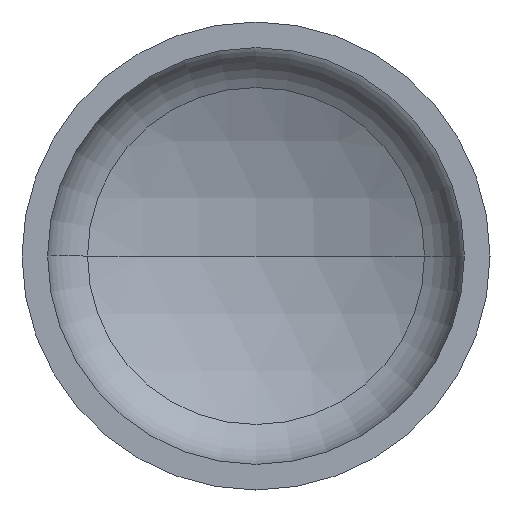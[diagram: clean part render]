
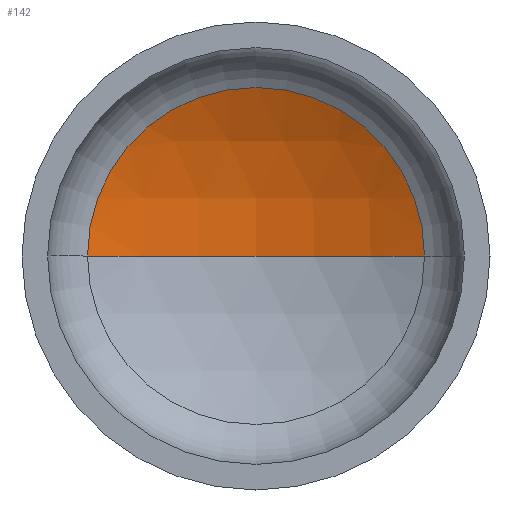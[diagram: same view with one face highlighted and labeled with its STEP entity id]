
A CAD part, front view. The second image highlights one B-rep face of the part: STEP entity #142.
In plain terms, the highlighted spherical face has radius 175 mm.
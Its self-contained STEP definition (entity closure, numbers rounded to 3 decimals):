
#2 = CIRCLE ( 'NONE', #132, 175. ) ;
#15 = VERTEX_POINT ( 'NONE', #264 ) ;
#17 = EDGE_LOOP ( 'NONE', ( #212, #119, #73 ) ) ;
#24 = CARTESIAN_POINT ( 'NONE',  ( 0., -85.867, 0. ) ) ;
#40 = DIRECTION ( 'NONE',  ( -1., 0., 0. ) ) ;
#44 = VERTEX_POINT ( 'NONE', #208 ) ;
#47 = DIRECTION ( 'NONE',  ( 0., 0., -1. ) ) ;
#73 = ORIENTED_EDGE ( 'NONE', *, *, #272, .T. ) ;
#100 = FACE_OUTER_BOUND ( 'NONE', #17, .T. ) ;
#106 = VERTEX_POINT ( 'NONE', #324 ) ;
#119 = ORIENTED_EDGE ( 'NONE', *, *, #273, .T. ) ;
#124 = AXIS2_PLACEMENT_3D ( 'NONE', #155, #382, #398 ) ;
#132 = AXIS2_PLACEMENT_3D ( 'NONE', #24, #47, #40 ) ;
#142 = ADVANCED_FACE ( 'NONE', ( #100 ), #268, .F. ) ;
#145 = AXIS2_PLACEMENT_3D ( 'NONE', #149, #148, #147 ) ;
#147 = DIRECTION ( 'NONE',  ( 1., 0., 0. ) ) ;
#148 = DIRECTION ( 'NONE',  ( 0., -1., 0. ) ) ;
#149 = CARTESIAN_POINT ( 'NONE',  ( 0., 70.351, 0. ) ) ;
#150 = CIRCLE ( 'NONE', #124, 175. ) ;
#155 = CARTESIAN_POINT ( 'NONE',  ( 0., -85.867, 0. ) ) ;
#157 = CIRCLE ( 'NONE', #145, 78.874 ) ;
#181 = DIRECTION ( 'NONE',  ( -1., 0., 0. ) ) ;
#190 = AXIS2_PLACEMENT_3D ( 'NONE', #305, #210, #181 ) ;
#208 = CARTESIAN_POINT ( 'NONE',  ( 78.874, 70.351, 0. ) ) ;
#210 = DIRECTION ( 'NONE',  ( 0., 0., -1. ) ) ;
#212 = ORIENTED_EDGE ( 'NONE', *, *, #279, .F. ) ;
#264 = CARTESIAN_POINT ( 'NONE',  ( -78.874, 70.351, 0. ) ) ;
#268 = SPHERICAL_SURFACE ( 'NONE', #190, 175. ) ;
#272 = EDGE_CURVE ( 'NONE', #44, #15, #157, .T. ) ;
#273 = EDGE_CURVE ( 'NONE', #106, #44, #2, .T. ) ;
#279 = EDGE_CURVE ( 'NONE', #106, #15, #150, .T. ) ;
#305 = CARTESIAN_POINT ( 'NONE',  ( 0., -85.867, 0. ) ) ;
#324 = CARTESIAN_POINT ( 'NONE',  ( 0., 89.133, 0. ) ) ;
#382 = DIRECTION ( 'NONE',  ( 0., 0., 1. ) ) ;
#398 = DIRECTION ( 'NONE',  ( 1., 0., 0. ) ) ;
